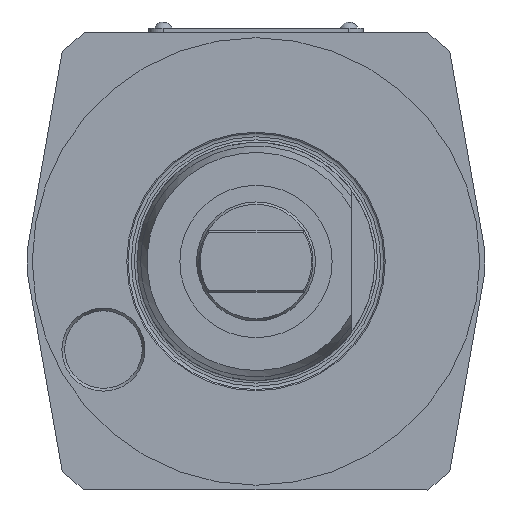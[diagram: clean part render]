
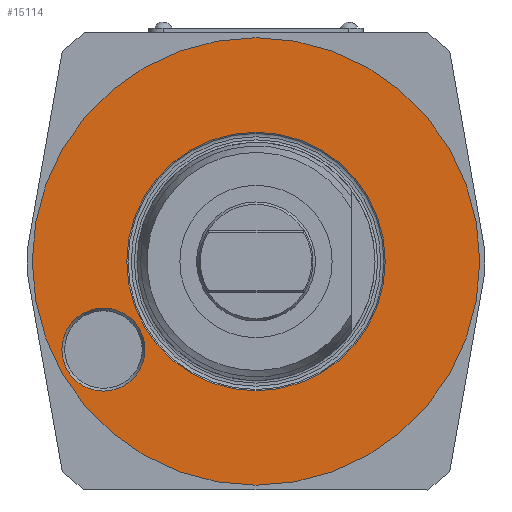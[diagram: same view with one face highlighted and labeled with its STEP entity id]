
A CAD part, left-side view. The second image highlights one B-rep face of the part: STEP entity #15114.
In plain terms, the highlighted planar face has unit normal (-1, 0, 0) as drawn and (0, 0, -1) by its records, which use the part's own axes.
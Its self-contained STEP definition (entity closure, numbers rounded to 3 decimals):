
#9430=PLANE('',#26586);
#10425=ORIENTED_EDGE('',*,*,#13069,.F.);
#10426=ORIENTED_EDGE('',*,*,#13070,.F.);
#10427=ORIENTED_EDGE('',*,*,#13071,.T.);
#12149=CIRCLE('',#26585,47.);
#12150=CIRCLE('',#26587,27.15);
#12151=CIRCLE('',#26588,8.727);
#12428=VERTEX_POINT('',#17547);
#12429=VERTEX_POINT('',#17550);
#12430=VERTEX_POINT('',#17552);
#13069=EDGE_CURVE('',#12428,#12428,#12149,.T.);
#13070=EDGE_CURVE('',#12429,#12429,#12150,.T.);
#13071=EDGE_CURVE('',#12430,#12430,#12151,.T.);
#13944=EDGE_LOOP('',(#10425));
#13945=EDGE_LOOP('',(#10426));
#13946=EDGE_LOOP('',(#10427));
#14459=FACE_BOUND('',#13944,.T.);
#14460=FACE_BOUND('',#13945,.T.);
#14461=FACE_BOUND('',#13946,.T.);
#15114=ADVANCED_FACE('',(#14459,#14460,#14461),#9430,.T.);
#15676=DIRECTION('',(0.,0.,1.));
#15677=DIRECTION('',(47.,0.,0.));
#15678=DIRECTION('',(0.,0.,-1.));
#15679=DIRECTION('',(0.,1.,0.));
#15680=DIRECTION('',(0.,0.,-1.));
#15681=DIRECTION('',(27.15,0.,0.));
#15682=DIRECTION('',(0.,0.,1.));
#15683=DIRECTION('',(0.,-8.727,0.));
#17547=CARTESIAN_POINT('',(47.,0.,78.));
#17548=CARTESIAN_POINT('',(0.,0.,78.));
#17549=CARTESIAN_POINT('',(47.,0.,78.));
#17550=CARTESIAN_POINT('',(27.15,0.,78.));
#17551=CARTESIAN_POINT('',(0.,0.,78.));
#17552=CARTESIAN_POINT('',(32.043,-27.227,78.));
#17553=CARTESIAN_POINT('',(32.043,-18.5,78.));
#26585=AXIS2_PLACEMENT_3D('',#17548,#15676,#15677);
#26586=AXIS2_PLACEMENT_3D('',#17549,#15678,#15679);
#26587=AXIS2_PLACEMENT_3D('',#17551,#15680,#15681);
#26588=AXIS2_PLACEMENT_3D('',#17553,#15682,#15683);
